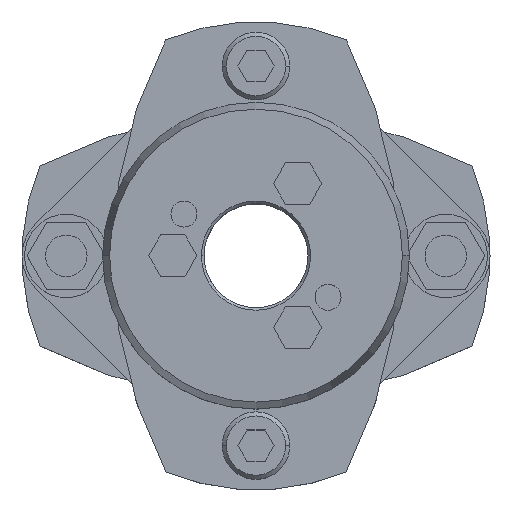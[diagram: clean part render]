
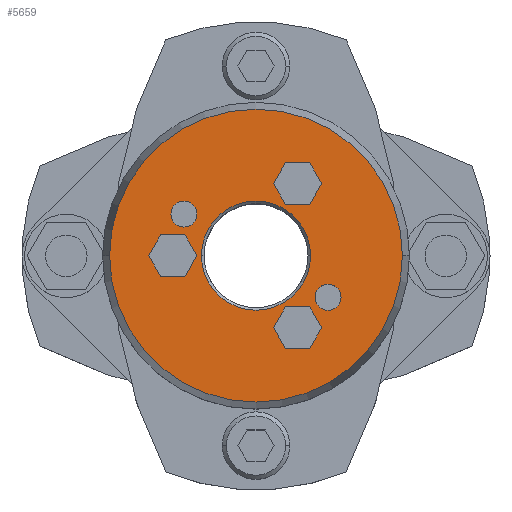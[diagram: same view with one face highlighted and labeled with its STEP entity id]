
A CAD part, top view. The second image highlights one B-rep face of the part: STEP entity #5659.
In plain terms, the highlighted planar face has unit normal (0, 0, 1).
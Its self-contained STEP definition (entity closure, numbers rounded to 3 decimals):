
#857=CARTESIAN_POINT('',(-10.5,0.,39.25));
#858=VERTEX_POINT('',#857);
#874=CARTESIAN_POINT('',(10.5,0.,39.25));
#875=VERTEX_POINT('',#874);
#882=CARTESIAN_POINT('',(0.,0.,39.25));
#883=DIRECTION('',(0.0,0.0,1.0));
#884=DIRECTION('',(-1.0,0.0,0.0));
#885=AXIS2_PLACEMENT_3D('',#882,#883,#884);
#886=CIRCLE('',#885,10.5);
#887=EDGE_CURVE('',#875,#858,#886,.T.);
#1045=CARTESIAN_POINT('',(28.16,0.,39.25));
#1046=VERTEX_POINT('',#1045);
#1053=CARTESIAN_POINT('',(-28.16,0.,39.25));
#1054=VERTEX_POINT('',#1053);
#1055=CARTESIAN_POINT('',(0.,0.,39.25));
#1056=DIRECTION('',(0.0,0.0,-1.0));
#1057=DIRECTION('',(1.0,0.0,0.0));
#1058=AXIS2_PLACEMENT_3D('',#1055,#1056,#1057);
#1059=CIRCLE('',#1058,28.16);
#1060=EDGE_CURVE('',#1046,#1054,#1059,.T.);
#1303=CARTESIAN_POINT('',(-16.356,8.,39.25));
#1304=VERTEX_POINT('',#1303);
#1320=CARTESIAN_POINT('',(-11.356,8.,39.25));
#1321=VERTEX_POINT('',#1320);
#1328=CARTESIAN_POINT('',(-13.856,8.,39.25));
#1329=DIRECTION('',(0.0,0.0,-1.0));
#1330=DIRECTION('',(-1.0,0.0,0.0));
#1331=AXIS2_PLACEMENT_3D('',#1328,#1329,#1330);
#1332=CIRCLE('',#1331,2.5);
#1333=EDGE_CURVE('',#1304,#1321,#1332,.T.);
#1345=CARTESIAN_POINT('',(11.356,-8.,39.25));
#1346=VERTEX_POINT('',#1345);
#1362=CARTESIAN_POINT('',(16.356,-8.,39.25));
#1363=VERTEX_POINT('',#1362);
#1370=CARTESIAN_POINT('',(13.856,-8.,39.25));
#1371=DIRECTION('',(0.0,0.0,-1.0));
#1372=DIRECTION('',(-1.0,0.0,0.0));
#1373=AXIS2_PLACEMENT_3D('',#1370,#1371,#1372);
#1374=CIRCLE('',#1373,2.5);
#1375=EDGE_CURVE('',#1346,#1363,#1374,.T.);
#4175=CARTESIAN_POINT('',(3.381,13.856,39.25));
#4176=VERTEX_POINT('',#4175);
#4183=CARTESIAN_POINT('',(5.691,9.856,39.25));
#4184=VERTEX_POINT('',#4183);
#4185=CARTESIAN_POINT('',(5.691,9.856,39.25));
#4186=DIRECTION('',(-0.5,0.866,0.0));
#4187=VECTOR('',#4186,4.619);
#4188=LINE('',#4185,#4187);
#4189=EDGE_CURVE('',#4184,#4176,#4188,.T.);
#4213=CARTESIAN_POINT('',(5.691,17.856,39.25));
#4214=VERTEX_POINT('',#4213);
#4221=CARTESIAN_POINT('',(3.381,13.856,39.25));
#4222=DIRECTION('',(0.5,0.866,0.0));
#4223=VECTOR('',#4222,4.619);
#4224=LINE('',#4221,#4223);
#4225=EDGE_CURVE('',#4176,#4214,#4224,.T.);
#4244=CARTESIAN_POINT('',(10.309,17.856,39.25));
#4245=VERTEX_POINT('',#4244);
#4252=CARTESIAN_POINT('',(5.691,17.856,39.25));
#4253=DIRECTION('',(1.0,0.0,0.0));
#4254=VECTOR('',#4253,4.619);
#4255=LINE('',#4252,#4254);
#4256=EDGE_CURVE('',#4214,#4245,#4255,.T.);
#4275=CARTESIAN_POINT('',(12.619,13.856,39.25));
#4276=VERTEX_POINT('',#4275);
#4283=CARTESIAN_POINT('',(10.309,17.856,39.25));
#4284=DIRECTION('',(0.5,-0.866,0.0));
#4285=VECTOR('',#4284,4.619);
#4286=LINE('',#4283,#4285);
#4287=EDGE_CURVE('',#4245,#4276,#4286,.T.);
#4306=CARTESIAN_POINT('',(10.309,9.856,39.25));
#4307=VERTEX_POINT('',#4306);
#4314=CARTESIAN_POINT('',(12.619,13.856,39.25));
#4315=DIRECTION('',(-0.5,-0.866,0.0));
#4316=VECTOR('',#4315,4.619);
#4317=LINE('',#4314,#4316);
#4318=EDGE_CURVE('',#4276,#4307,#4317,.T.);
#4336=CARTESIAN_POINT('',(10.309,9.856,39.25));
#4337=DIRECTION('',(-1.0,0.0,0.0));
#4338=VECTOR('',#4337,4.619);
#4339=LINE('',#4336,#4338);
#4340=EDGE_CURVE('',#4307,#4184,#4339,.T.);
#4375=CARTESIAN_POINT('',(-20.619,0.,39.25));
#4376=VERTEX_POINT('',#4375);
#4383=CARTESIAN_POINT('',(-18.309,-4.,39.25));
#4384=VERTEX_POINT('',#4383);
#4385=CARTESIAN_POINT('',(-18.309,-4.,39.25));
#4386=DIRECTION('',(-0.5,0.866,0.0));
#4387=VECTOR('',#4386,4.619);
#4388=LINE('',#4385,#4387);
#4389=EDGE_CURVE('',#4384,#4376,#4388,.T.);
#4413=CARTESIAN_POINT('',(-18.309,4.,39.25));
#4414=VERTEX_POINT('',#4413);
#4421=CARTESIAN_POINT('',(-20.619,0.,39.25));
#4422=DIRECTION('',(0.5,0.866,0.0));
#4423=VECTOR('',#4422,4.619);
#4424=LINE('',#4421,#4423);
#4425=EDGE_CURVE('',#4376,#4414,#4424,.T.);
#4444=CARTESIAN_POINT('',(-13.691,4.,39.25));
#4445=VERTEX_POINT('',#4444);
#4452=CARTESIAN_POINT('',(-18.309,4.,39.25));
#4453=DIRECTION('',(1.0,0.0,0.0));
#4454=VECTOR('',#4453,4.619);
#4455=LINE('',#4452,#4454);
#4456=EDGE_CURVE('',#4414,#4445,#4455,.T.);
#4475=CARTESIAN_POINT('',(-11.381,0.,39.25));
#4476=VERTEX_POINT('',#4475);
#4483=CARTESIAN_POINT('',(-13.691,4.,39.25));
#4484=DIRECTION('',(0.5,-0.866,0.0));
#4485=VECTOR('',#4484,4.619);
#4486=LINE('',#4483,#4485);
#4487=EDGE_CURVE('',#4445,#4476,#4486,.T.);
#4506=CARTESIAN_POINT('',(-13.691,-4.,39.25));
#4507=VERTEX_POINT('',#4506);
#4514=CARTESIAN_POINT('',(-11.381,0.,39.25));
#4515=DIRECTION('',(-0.5,-0.866,0.0));
#4516=VECTOR('',#4515,4.619);
#4517=LINE('',#4514,#4516);
#4518=EDGE_CURVE('',#4476,#4507,#4517,.T.);
#4536=CARTESIAN_POINT('',(-13.691,-4.,39.25));
#4537=DIRECTION('',(-1.0,0.0,0.0));
#4538=VECTOR('',#4537,4.619);
#4539=LINE('',#4536,#4538);
#4540=EDGE_CURVE('',#4507,#4384,#4539,.T.);
#4575=CARTESIAN_POINT('',(3.381,-13.856,39.25));
#4576=VERTEX_POINT('',#4575);
#4583=CARTESIAN_POINT('',(5.691,-17.856,39.25));
#4584=VERTEX_POINT('',#4583);
#4585=CARTESIAN_POINT('',(5.691,-17.856,39.25));
#4586=DIRECTION('',(-0.5,0.866,0.0));
#4587=VECTOR('',#4586,4.619);
#4588=LINE('',#4585,#4587);
#4589=EDGE_CURVE('',#4584,#4576,#4588,.T.);
#4613=CARTESIAN_POINT('',(5.691,-9.856,39.25));
#4614=VERTEX_POINT('',#4613);
#4621=CARTESIAN_POINT('',(3.381,-13.856,39.25));
#4622=DIRECTION('',(0.5,0.866,0.0));
#4623=VECTOR('',#4622,4.619);
#4624=LINE('',#4621,#4623);
#4625=EDGE_CURVE('',#4576,#4614,#4624,.T.);
#4644=CARTESIAN_POINT('',(10.309,-9.856,39.25));
#4645=VERTEX_POINT('',#4644);
#4652=CARTESIAN_POINT('',(5.691,-9.856,39.25));
#4653=DIRECTION('',(1.0,0.0,0.0));
#4654=VECTOR('',#4653,4.619);
#4655=LINE('',#4652,#4654);
#4656=EDGE_CURVE('',#4614,#4645,#4655,.T.);
#4675=CARTESIAN_POINT('',(12.619,-13.856,39.25));
#4676=VERTEX_POINT('',#4675);
#4683=CARTESIAN_POINT('',(10.309,-9.856,39.25));
#4684=DIRECTION('',(0.5,-0.866,0.0));
#4685=VECTOR('',#4684,4.619);
#4686=LINE('',#4683,#4685);
#4687=EDGE_CURVE('',#4645,#4676,#4686,.T.);
#4706=CARTESIAN_POINT('',(10.309,-17.856,39.25));
#4707=VERTEX_POINT('',#4706);
#4714=CARTESIAN_POINT('',(12.619,-13.856,39.25));
#4715=DIRECTION('',(-0.5,-0.866,0.0));
#4716=VECTOR('',#4715,4.619);
#4717=LINE('',#4714,#4716);
#4718=EDGE_CURVE('',#4676,#4707,#4717,.T.);
#4736=CARTESIAN_POINT('',(10.309,-17.856,39.25));
#4737=DIRECTION('',(-1.0,0.0,0.0));
#4738=VECTOR('',#4737,4.619);
#4739=LINE('',#4736,#4738);
#4740=EDGE_CURVE('',#4707,#4584,#4739,.T.);
#4766=CARTESIAN_POINT('',(13.856,-8.,39.25));
#4767=DIRECTION('',(0.0,0.0,-1.0));
#4768=DIRECTION('',(-1.0,0.0,0.0));
#4769=AXIS2_PLACEMENT_3D('',#4766,#4767,#4768);
#4770=CIRCLE('',#4769,2.5);
#4771=EDGE_CURVE('',#1363,#1346,#4770,.T.);
#4800=CARTESIAN_POINT('',(-13.856,8.,39.25));
#4801=DIRECTION('',(0.0,0.0,-1.0));
#4802=DIRECTION('',(-1.0,0.0,0.0));
#4803=AXIS2_PLACEMENT_3D('',#4800,#4801,#4802);
#4804=CIRCLE('',#4803,2.5);
#4805=EDGE_CURVE('',#1321,#1304,#4804,.T.);
#5598=CARTESIAN_POINT('',(0.,0.,39.25));
#5599=DIRECTION('',(0.0,0.0,-1.0));
#5600=DIRECTION('',(1.0,0.0,0.0));
#5601=AXIS2_PLACEMENT_3D('',#5598,#5599,#5600);
#5602=CIRCLE('',#5601,28.16);
#5603=EDGE_CURVE('',#1054,#1046,#5602,.T.);
#5608=CARTESIAN_POINT('',(-2.682,0.,39.25));
#5609=DIRECTION('',(0.0,0.0,1.0));
#5610=DIRECTION('',(-1.0,0.0,0.0));
#5611=AXIS2_PLACEMENT_3D('',#5608,#5609,#5610);
#5612=PLANE('',#5611);
#5613=ORIENTED_EDGE('',*,*,#5603,.F.);
#5614=ORIENTED_EDGE('',*,*,#1060,.F.);
#5615=EDGE_LOOP('',(#5613,#5614));
#5616=FACE_OUTER_BOUND('',#5615,.T.);
#5617=ORIENTED_EDGE('',*,*,#4189,.T.);
#5618=ORIENTED_EDGE('',*,*,#4225,.T.);
#5619=ORIENTED_EDGE('',*,*,#4256,.T.);
#5620=ORIENTED_EDGE('',*,*,#4287,.T.);
#5621=ORIENTED_EDGE('',*,*,#4318,.T.);
#5622=ORIENTED_EDGE('',*,*,#4340,.T.);
#5623=EDGE_LOOP('',(#5617,#5618,#5619,#5620,#5621,#5622));
#5624=FACE_BOUND('',#5623,.T.);
#5625=ORIENTED_EDGE('',*,*,#4389,.T.);
#5626=ORIENTED_EDGE('',*,*,#4425,.T.);
#5627=ORIENTED_EDGE('',*,*,#4456,.T.);
#5628=ORIENTED_EDGE('',*,*,#4487,.T.);
#5629=ORIENTED_EDGE('',*,*,#4518,.T.);
#5630=ORIENTED_EDGE('',*,*,#4540,.T.);
#5631=EDGE_LOOP('',(#5625,#5626,#5627,#5628,#5629,#5630));
#5632=FACE_BOUND('',#5631,.T.);
#5633=ORIENTED_EDGE('',*,*,#4589,.T.);
#5634=ORIENTED_EDGE('',*,*,#4625,.T.);
#5635=ORIENTED_EDGE('',*,*,#4656,.T.);
#5636=ORIENTED_EDGE('',*,*,#4687,.T.);
#5637=ORIENTED_EDGE('',*,*,#4718,.T.);
#5638=ORIENTED_EDGE('',*,*,#4740,.T.);
#5639=EDGE_LOOP('',(#5633,#5634,#5635,#5636,#5637,#5638));
#5640=FACE_BOUND('',#5639,.T.);
#5641=ORIENTED_EDGE('',*,*,#1375,.T.);
#5642=ORIENTED_EDGE('',*,*,#4771,.T.);
#5643=EDGE_LOOP('',(#5641,#5642));
#5644=FACE_BOUND('',#5643,.T.);
#5645=ORIENTED_EDGE('',*,*,#1333,.T.);
#5646=ORIENTED_EDGE('',*,*,#4805,.T.);
#5647=EDGE_LOOP('',(#5645,#5646));
#5648=FACE_BOUND('',#5647,.T.);
#5649=ORIENTED_EDGE('',*,*,#887,.F.);
#5650=CARTESIAN_POINT('',(0.,0.,39.25));
#5651=DIRECTION('',(0.0,0.0,1.0));
#5652=DIRECTION('',(-1.0,0.0,0.0));
#5653=AXIS2_PLACEMENT_3D('',#5650,#5651,#5652);
#5654=CIRCLE('',#5653,10.5);
#5655=EDGE_CURVE('',#858,#875,#5654,.T.);
#5656=ORIENTED_EDGE('',*,*,#5655,.F.);
#5657=EDGE_LOOP('',(#5649,#5656));
#5658=FACE_BOUND('',#5657,.T.);
#5659=ADVANCED_FACE('',(#5616,#5624,#5632,#5640,#5644,#5648,#5658),#5612,.T.);
